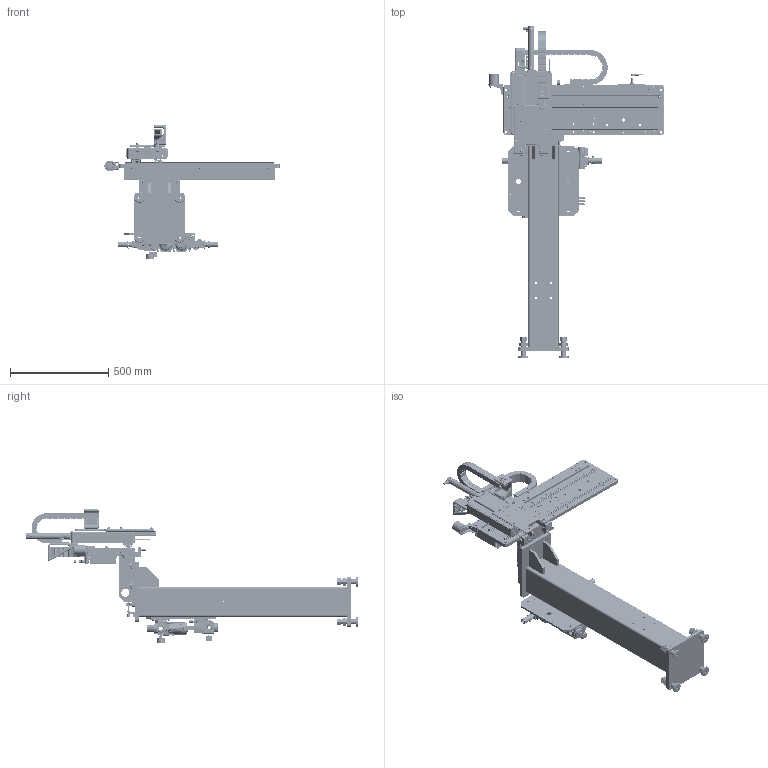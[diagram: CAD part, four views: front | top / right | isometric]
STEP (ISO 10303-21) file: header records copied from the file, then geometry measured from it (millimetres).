
FILE_DESCRIPTION (( 'STEP AP203' ), '1' );
FILE_NAME ('SFC-2 - UNGUARDED PNEUMATIC PNP_EXT.STEP', '2023-08-31T19:40:04', ( '' ), ( '' ), 'SwSTEP 2.0', 'SolidWorks 2021', '' );
FILE_SCHEMA (( 'CONFIG_CONTROL_DESIGN' ));
Products named in the file (1): SFC-2 - UNGUARDED PNEUMATIC PNP_EXT
Bounding box: 889.3 x 1684.67 x 677.78 mm (x, y, z)
Surface area: 3662914.9 mm2 (no closed solid volume)
Topology: 0 solids, 569 shells, 3379 faces, 16190 edges, 12805 vertices
Faces by surface type: plane 2042, cylinder 986, cone 166, torus 90, bspline 59, sphere 36
Full cylindrical faces by diameter (mm): 2.5 x1, 2.6 x1, 3.264 x2, 3.3 x1, 3.454 x8, 3.797 x7, 3.97 x2, 4 x2, 4.445 x1, 4.5 x1, 4.564 x4, 4.763 x6, 4.8 x2, 4.826 x2, 4.9 x2, 4.915 x1, 5 x8, 5.105 x8, 5.4 x2, 5.5 x10, 5.556 x2, 5.563 x2, 5.613 x9, 5.639 x1, 5.8 x5, 6 x20, 6.2 x7, 6.35 x4, 6.401 x1, 6.426 x1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
Entity records: 175229 total; most frequent: CARTESIAN_POINT 51057, DIRECTION 24849, ORIENTED_EDGE 20668, EDGE_CURVE 15543, VERTEX_POINT 12707, LINE 9989, VECTOR 9989, AXIS2_PLACEMENT_3D 7430
